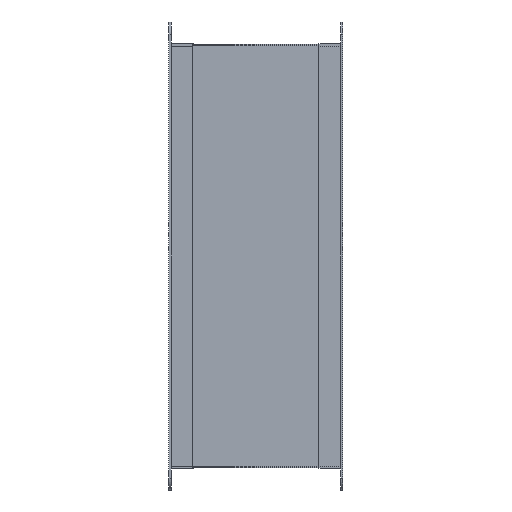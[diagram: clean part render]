
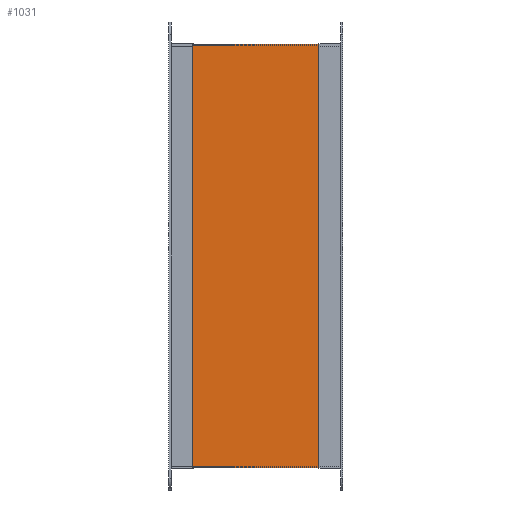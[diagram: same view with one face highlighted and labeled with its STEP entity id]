
A CAD part, left-side view. The second image highlights one B-rep face of the part: STEP entity #1031.
In plain terms, the highlighted planar face has unit normal (-1, 0, 0).
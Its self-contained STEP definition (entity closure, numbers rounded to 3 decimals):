
#39=PLANE('',#1127);
#113=LINE('',#1611,#217);
#122=LINE('',#1629,#226);
#123=LINE('',#1631,#227);
#124=LINE('',#1632,#228);
#217=VECTOR('',#1325,10.);
#226=VECTOR('',#1342,10.);
#227=VECTOR('',#1343,10.);
#228=VECTOR('',#1344,10.);
#335=FACE_OUTER_BOUND('',#409,.T.);
#409=EDGE_LOOP('',(#847,#848,#849,#850));
#542=VERTEX_POINT('',#1605);
#544=VERTEX_POINT('',#1609);
#549=VERTEX_POINT('',#1628);
#550=VERTEX_POINT('',#1630);
#657=EDGE_CURVE('',#544,#542,#113,.T.);
#666=EDGE_CURVE('',#542,#549,#122,.T.);
#667=EDGE_CURVE('',#550,#544,#123,.T.);
#668=EDGE_CURVE('',#549,#550,#124,.T.);
#847=ORIENTED_EDGE('',*,*,#666,.F.);
#848=ORIENTED_EDGE('',*,*,#657,.F.);
#849=ORIENTED_EDGE('',*,*,#667,.F.);
#850=ORIENTED_EDGE('',*,*,#668,.F.);
#1031=ADVANCED_FACE('',(#335),#39,.T.);
#1127=AXIS2_PLACEMENT_3D('',#1627,#1340,#1341);
#1325=DIRECTION('',(0.,-1.,0.));
#1340=DIRECTION('center_axis',(-1.,0.,0.));
#1341=DIRECTION('ref_axis',(0.,0.,1.));
#1342=DIRECTION('',(0.,0.,-1.));
#1343=DIRECTION('',(0.,0.,1.));
#1344=DIRECTION('',(0.,1.,0.));
#1605=CARTESIAN_POINT('',(-301.5,-52.5,176.5));
#1609=CARTESIAN_POINT('',(-301.5,52.5,176.5));
#1611=CARTESIAN_POINT('',(-301.5,0.,176.5));
#1627=CARTESIAN_POINT('Origin',(-301.5,0.,-176.5));
#1628=CARTESIAN_POINT('',(-301.5,-52.5,-176.5));
#1629=CARTESIAN_POINT('',(-301.5,-52.5,9.25));
#1630=CARTESIAN_POINT('',(-301.5,52.5,-176.5));
#1631=CARTESIAN_POINT('',(-301.5,52.5,-185.75));
#1632=CARTESIAN_POINT('',(-301.5,0.,-176.5));
